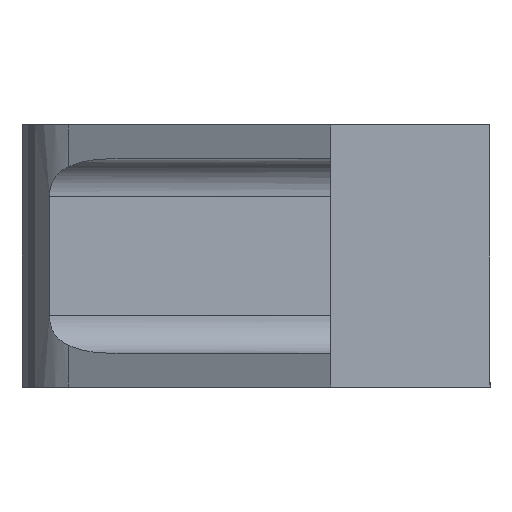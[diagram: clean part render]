
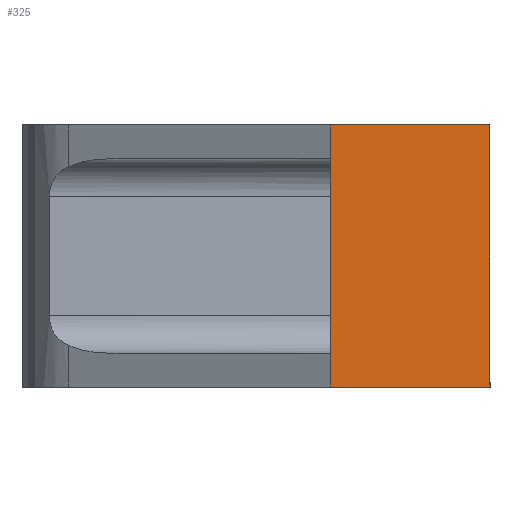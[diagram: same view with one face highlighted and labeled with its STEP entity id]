
A CAD part, left-side view. The second image highlights one B-rep face of the part: STEP entity #325.
In plain terms, the highlighted planar face has unit normal (-1, 0, 0).
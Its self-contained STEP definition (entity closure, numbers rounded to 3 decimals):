
#22 = ORIENTED_EDGE ( 'NONE', *, *, #393, .F. ) ;
#35 = VERTEX_POINT ( 'NONE', #1263 ) ;
#50 = DIRECTION ( 'NONE',  ( 0., 0., -1. ) ) ;
#65 = VERTEX_POINT ( 'NONE', #400 ) ;
#102 = VECTOR ( 'NONE', #1193, 1000. ) ;
#163 = VECTOR ( 'NONE', #264, 1000. ) ;
#212 = VERTEX_POINT ( 'NONE', #309 ) ;
#264 = DIRECTION ( 'NONE',  ( 0., -1., 0. ) ) ;
#282 = ORIENTED_EDGE ( 'NONE', *, *, #1246, .T. ) ;
#295 = DIRECTION ( 'NONE',  ( 0., 0., 1. ) ) ;
#305 = VECTOR ( 'NONE', #295, 1000. ) ;
#309 = CARTESIAN_POINT ( 'NONE',  ( -98.5, 17., -14. ) ) ;
#324 = VECTOR ( 'NONE', #1253, 1000. ) ;
#325 = ADVANCED_FACE ( 'NONE', ( #469 ), #1317, .T. ) ;
#368 = VERTEX_POINT ( 'NONE', #1104 ) ;
#393 = EDGE_CURVE ( 'NONE', #368, #65, #1206, .T. ) ;
#400 = CARTESIAN_POINT ( 'NONE',  ( -98.5, 0., 14. ) ) ;
#424 = CARTESIAN_POINT ( 'NONE',  ( -98.5, 17., 14. ) ) ;
#461 = LINE ( 'NONE', #1108, #1035 ) ;
#469 = FACE_OUTER_BOUND ( 'NONE', #1196, .T. ) ;
#535 = ORIENTED_EDGE ( 'NONE', *, *, #599, .T. ) ;
#550 = CARTESIAN_POINT ( 'NONE',  ( -98.5, 17., 14. ) ) ;
#557 = DIRECTION ( 'NONE',  ( 0., 0., 1. ) ) ;
#568 = CARTESIAN_POINT ( 'NONE',  ( -98.5, 0., -14. ) ) ;
#577 = CARTESIAN_POINT ( 'NONE',  ( -98.5, 0., 14. ) ) ;
#599 = EDGE_CURVE ( 'NONE', #1131, #35, #1171, .T. ) ;
#621 = CARTESIAN_POINT ( 'NONE',  ( -98.5, 0., 14. ) ) ;
#622 = ORIENTED_EDGE ( 'NONE', *, *, #957, .T. ) ;
#662 = LINE ( 'NONE', #550, #1165 ) ;
#670 = EDGE_CURVE ( 'NONE', #212, #1040, #983, .T. ) ;
#686 = ORIENTED_EDGE ( 'NONE', *, *, #732, .T. ) ;
#696 = AXIS2_PLACEMENT_3D ( 'NONE', #891, #1109, #557 ) ;
#732 = EDGE_CURVE ( 'NONE', #35, #212, #461, .T. ) ;
#770 = CARTESIAN_POINT ( 'NONE',  ( -98.5, 0., -14. ) ) ;
#815 = LINE ( 'NONE', #621, #305 ) ;
#891 = CARTESIAN_POINT ( 'NONE',  ( -98.5, 17., 14. ) ) ;
#957 = EDGE_CURVE ( 'NONE', #368, #1131, #662, .T. ) ;
#983 = LINE ( 'NONE', #770, #102 ) ;
#1035 = VECTOR ( 'NONE', #50, 1000. ) ;
#1040 = VERTEX_POINT ( 'NONE', #568 ) ;
#1088 = DIRECTION ( 'NONE',  ( 0., 0., -1. ) ) ;
#1104 = CARTESIAN_POINT ( 'NONE',  ( -98.5, 17., 14. ) ) ;
#1108 = CARTESIAN_POINT ( 'NONE',  ( -98.5, 17., 14. ) ) ;
#1109 = DIRECTION ( 'NONE',  ( -1., 0., 0. ) ) ;
#1131 = VERTEX_POINT ( 'NONE', #1315 ) ;
#1165 = VECTOR ( 'NONE', #1088, 1000. ) ;
#1171 = LINE ( 'NONE', #424, #324 ) ;
#1193 = DIRECTION ( 'NONE',  ( 0., -1., 0. ) ) ;
#1196 = EDGE_LOOP ( 'NONE', ( #535, #686, #1342, #282, #22, #622 ) ) ;
#1206 = LINE ( 'NONE', #577, #163 ) ;
#1246 = EDGE_CURVE ( 'NONE', #1040, #65, #815, .T. ) ;
#1253 = DIRECTION ( 'NONE',  ( 0., 0., -1. ) ) ;
#1263 = CARTESIAN_POINT ( 'NONE',  ( -98.5, 17., -10.375 ) ) ;
#1315 = CARTESIAN_POINT ( 'NONE',  ( -98.5, 17., 10.375 ) ) ;
#1317 = PLANE ( 'NONE',  #696 ) ;
#1342 = ORIENTED_EDGE ( 'NONE', *, *, #670, .T. ) ;
